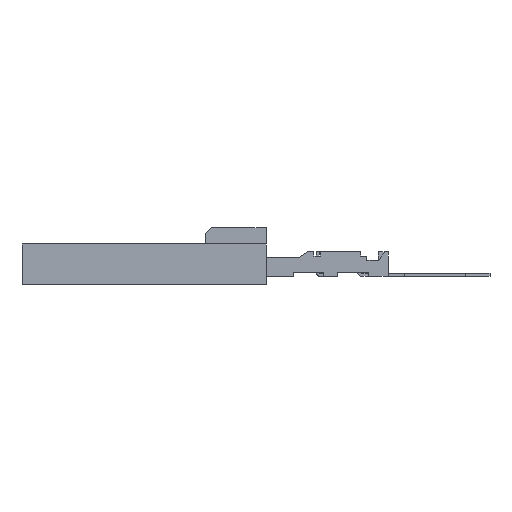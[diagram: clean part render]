
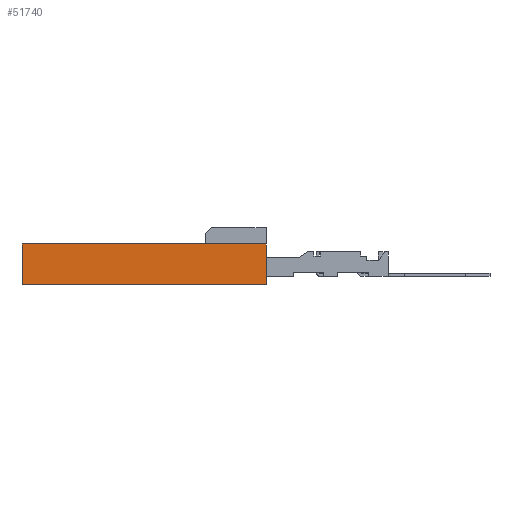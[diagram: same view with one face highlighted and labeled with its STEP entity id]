
A CAD part, left-side view. The second image highlights one B-rep face of the part: STEP entity #51740.
In plain terms, the highlighted planar face has unit normal (-1, 0, 0).
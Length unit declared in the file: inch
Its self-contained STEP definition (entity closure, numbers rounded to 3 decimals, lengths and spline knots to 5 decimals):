
#509=DIRECTION('',(0.,0.,1.));
#510=VECTOR('',#509,0.099);
#511=CARTESIAN_POINT('',(-0.7495,-0.3,-0.0495));
#512=LINE('',#511,#510);
#17273=DIRECTION('',(0.,1.,0.));
#17274=VECTOR('',#17273,0.6);
#17275=CARTESIAN_POINT('',(-0.7495,-0.3,0.0495));
#17276=LINE('',#17275,#17274);
#18317=DIRECTION('',(0.,1.,0.));
#18318=VECTOR('',#18317,0.6);
#18319=CARTESIAN_POINT('',(-0.7495,-0.3,-0.0495));
#18320=LINE('',#18319,#18318);
#18329=DIRECTION('',(0.,0.,1.));
#18330=VECTOR('',#18329,0.099);
#18331=CARTESIAN_POINT('',(-0.7495,0.3,-0.0495));
#18332=LINE('',#18331,#18330);
#19809=CARTESIAN_POINT('',(-0.7495,-0.3,-0.0495));
#19810=CARTESIAN_POINT('',(-0.7495,-0.3,0.0495));
#19811=VERTEX_POINT('',#19809);
#19812=VERTEX_POINT('',#19810);
#19817=CARTESIAN_POINT('',(-0.7495,0.3,-0.0495));
#19818=CARTESIAN_POINT('',(-0.7495,0.3,0.0495));
#19819=VERTEX_POINT('',#19817);
#19820=VERTEX_POINT('',#19818);
#51727=CARTESIAN_POINT('',(-0.7495,-0.3,-0.0495));
#51728=DIRECTION('',(-1.,0.,0.));
#51729=DIRECTION('',(0.,0.,1.));
#51730=AXIS2_PLACEMENT_3D('',#51727,#51728,#51729);
#51731=PLANE('',#51730);
#51732=ORIENTED_EDGE('',*,*,#26092,.F.);
#51734=ORIENTED_EDGE('',*,*,#51733,.T.);
#51736=ORIENTED_EDGE('',*,*,#51735,.T.);
#51737=ORIENTED_EDGE('',*,*,#49227,.F.);
#51738=EDGE_LOOP('',(#51732,#51734,#51736,#51737));
#51739=FACE_OUTER_BOUND('',#51738,.F.);
#51740=ADVANCED_FACE('',(#51739),#51731,.T.);
#26092=EDGE_CURVE('',#19811,#19812,#512,.T.);
#49227=EDGE_CURVE('',#19812,#19820,#17276,.T.);
#51733=EDGE_CURVE('',#19811,#19819,#18320,.T.);
#51735=EDGE_CURVE('',#19819,#19820,#18332,.T.);
